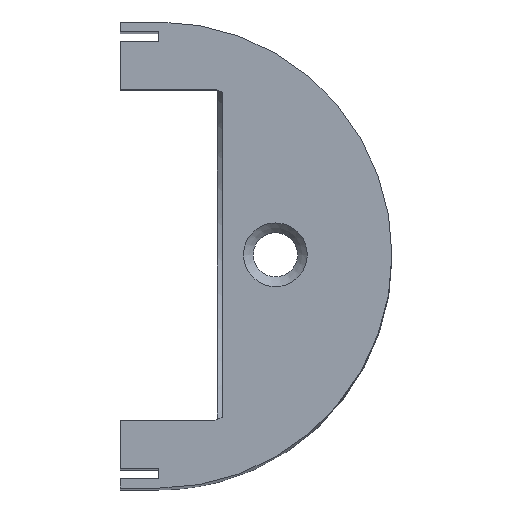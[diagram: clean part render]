
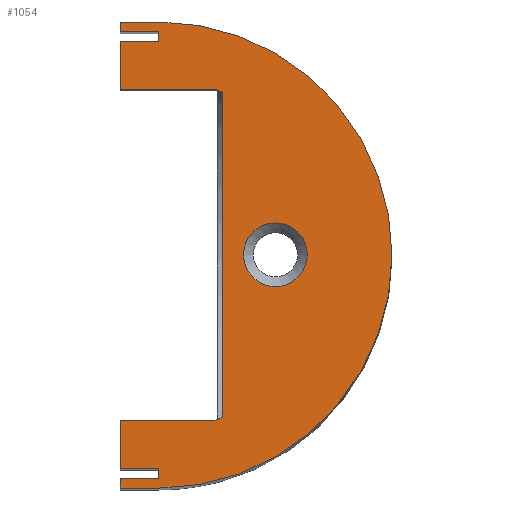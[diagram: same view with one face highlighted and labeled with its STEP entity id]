
A CAD part, top view. The second image highlights one B-rep face of the part: STEP entity #1054.
In plain terms, the highlighted planar face has unit normal (0, 0, 1).
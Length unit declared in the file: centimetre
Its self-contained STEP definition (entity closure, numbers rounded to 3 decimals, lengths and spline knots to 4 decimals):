
#163=VECTOR('',#1308,1.);
#164=VECTOR('',#1309,1.);
#165=VECTOR('',#1310,1.);
#166=VECTOR('',#1311,1.);
#167=VECTOR('',#1312,1.);
#168=VECTOR('',#1313,1.);
#169=VECTOR('',#1316,1.);
#170=VECTOR('',#1317,1.);
#171=VECTOR('',#1318,1.);
#172=VECTOR('',#1319,1.);
#173=VECTOR('',#1320,1.);
#174=VECTOR('',#1321,1.);
#175=VECTOR('',#1322,1.);
#176=VECTOR('',#1325,1.);
#177=VECTOR('',#1328,1.);
#268=LINE('',#1583,#163);
#269=LINE('',#1586,#164);
#270=LINE('',#1588,#165);
#271=LINE('',#1590,#166);
#272=LINE('',#1592,#167);
#273=LINE('',#1594,#168);
#274=LINE('',#1598,#169);
#275=LINE('',#1600,#170);
#276=LINE('',#1602,#171);
#277=LINE('',#1604,#172);
#278=LINE('',#1606,#173);
#279=LINE('',#1608,#174);
#280=LINE('',#1610,#175);
#281=LINE('',#1614,#176);
#282=LINE('',#1618,#177);
#396=VERTEX_POINT('',#1578);
#398=VERTEX_POINT('',#1584);
#399=VERTEX_POINT('',#1585);
#400=VERTEX_POINT('',#1587);
#401=VERTEX_POINT('',#1589);
#402=VERTEX_POINT('',#1591);
#403=VERTEX_POINT('',#1593);
#404=VERTEX_POINT('',#1595);
#405=VERTEX_POINT('',#1597);
#406=VERTEX_POINT('',#1599);
#407=VERTEX_POINT('',#1601);
#408=VERTEX_POINT('',#1603);
#409=VERTEX_POINT('',#1605);
#410=VERTEX_POINT('',#1607);
#411=VERTEX_POINT('',#1609);
#412=VERTEX_POINT('',#1611);
#413=VERTEX_POINT('',#1613);
#414=VERTEX_POINT('',#1615);
#415=VERTEX_POINT('',#1617);
#458=CIRCLE('',#1129,0.5207);
#460=CIRCLE('',#1133,3.81);
#461=CIRCLE('',#1134,2.853);
#462=CIRCLE('',#1135,2.853);
#554=EDGE_CURVE('',#396,#396,#458,.T.);
#556=EDGE_CURVE('',#398,#399,#268,.T.);
#557=EDGE_CURVE('',#400,#398,#269,.T.);
#558=EDGE_CURVE('',#401,#400,#270,.T.);
#559=EDGE_CURVE('',#402,#401,#271,.T.);
#560=EDGE_CURVE('',#403,#402,#272,.T.);
#561=EDGE_CURVE('',#404,#403,#273,.T.);
#562=EDGE_CURVE('',#405,#404,#460,.T.);
#563=EDGE_CURVE('',#406,#405,#274,.T.);
#564=EDGE_CURVE('',#407,#406,#275,.T.);
#565=EDGE_CURVE('',#408,#407,#276,.T.);
#566=EDGE_CURVE('',#409,#408,#277,.T.);
#567=EDGE_CURVE('',#410,#409,#278,.T.);
#568=EDGE_CURVE('',#411,#410,#279,.T.);
#569=EDGE_CURVE('',#412,#411,#280,.T.);
#570=EDGE_CURVE('',#413,#412,#461,.T.);
#571=EDGE_CURVE('',#414,#413,#281,.T.);
#572=EDGE_CURVE('',#415,#414,#462,.T.);
#573=EDGE_CURVE('',#399,#415,#282,.T.);
#760=ORIENTED_EDGE('',*,*,#556,.F.);
#761=ORIENTED_EDGE('',*,*,#557,.F.);
#762=ORIENTED_EDGE('',*,*,#558,.F.);
#763=ORIENTED_EDGE('',*,*,#559,.F.);
#764=ORIENTED_EDGE('',*,*,#560,.F.);
#765=ORIENTED_EDGE('',*,*,#561,.F.);
#766=ORIENTED_EDGE('',*,*,#562,.F.);
#767=ORIENTED_EDGE('',*,*,#563,.F.);
#768=ORIENTED_EDGE('',*,*,#564,.F.);
#769=ORIENTED_EDGE('',*,*,#565,.F.);
#770=ORIENTED_EDGE('',*,*,#566,.F.);
#771=ORIENTED_EDGE('',*,*,#567,.F.);
#772=ORIENTED_EDGE('',*,*,#568,.F.);
#773=ORIENTED_EDGE('',*,*,#569,.F.);
#774=ORIENTED_EDGE('',*,*,#570,.F.);
#775=ORIENTED_EDGE('',*,*,#571,.F.);
#776=ORIENTED_EDGE('',*,*,#572,.F.);
#777=ORIENTED_EDGE('',*,*,#573,.F.);
#778=ORIENTED_EDGE('',*,*,#554,.F.);
#941=EDGE_LOOP('',(#760,#761,#762,#763,#764,#765,#766,#767,#768,#769,#770,
#771,#772,#773,#774,#775,#776,#777));
#942=EDGE_LOOP('',(#778));
#1000=FACE_BOUND('',#941,.T.);
#1001=FACE_BOUND('',#942,.T.);
#1054=ADVANCED_FACE('',(#1000,#1001),#1710,.T.);
#1129=AXIS2_PLACEMENT_3D('',#1577,#1301,#1302);
#1132=AXIS2_PLACEMENT_3D('',#1582,#1307,$);
#1133=AXIS2_PLACEMENT_3D('',#1596,#1314,#1315);
#1134=AXIS2_PLACEMENT_3D('',#1612,#1323,#1324);
#1135=AXIS2_PLACEMENT_3D('',#1616,#1326,#1327);
#1301=DIRECTION('',(0.,0.,1.));
#1302=DIRECTION('',(-0.521,0.,0.));
#1307=DIRECTION('',(0.,0.,1.));
#1308=DIRECTION('',(0.,1.,0.));
#1309=DIRECTION('',(-1.,0.,0.));
#1310=DIRECTION('',(0.,1.,0.));
#1311=DIRECTION('',(1.,0.,0.));
#1312=DIRECTION('',(0.,1.,0.));
#1313=DIRECTION('',(-1.,0.,0.));
#1314=DIRECTION('',(0.,0.,-1.));
#1315=DIRECTION('',(3.81,0.,0.));
#1316=DIRECTION('',(1.,0.,0.));
#1317=DIRECTION('',(0.,1.,0.));
#1318=DIRECTION('',(-1.,0.,0.));
#1319=DIRECTION('',(0.,1.,0.));
#1320=DIRECTION('',(1.,0.,0.));
#1321=DIRECTION('',(0.,1.,0.));
#1322=DIRECTION('',(-1.,0.,0.));
#1323=DIRECTION('',(0.,0.,1.));
#1324=DIRECTION('',(2.853,0.,0.));
#1325=DIRECTION('',(0.,1.,0.));
#1326=DIRECTION('',(0.,0.,1.));
#1327=DIRECTION('',(2.853,0.,0.));
#1328=DIRECTION('',(1.,0.,0.));
#1577=CARTESIAN_POINT('',(1.905,0.0045,19.05));
#1578=CARTESIAN_POINT('',(2.4257,0.0045,19.05));
#1582=CARTESIAN_POINT('',(1.7144,0.0002,19.05));
#1583=CARTESIAN_POINT('',(-0.635,-3.3337,19.05));
#1584=CARTESIAN_POINT('',(-0.635,-3.4835,19.05));
#1585=CARTESIAN_POINT('',(-0.635,-2.6988,19.05));
#1586=CARTESIAN_POINT('',(-0.635,-3.4835,19.05));
#1587=CARTESIAN_POINT('',(0.,-3.4835,19.05));
#1588=CARTESIAN_POINT('',(0.,-3.4835,19.05));
#1589=CARTESIAN_POINT('',(0.,-3.6513,19.05));
#1590=CARTESIAN_POINT('',(0.,-3.6513,19.05));
#1591=CARTESIAN_POINT('',(-0.635,-3.6513,19.05));
#1592=CARTESIAN_POINT('',(-0.635,-3.6513,19.05));
#1593=CARTESIAN_POINT('',(-0.635,-3.81,19.05));
#1594=CARTESIAN_POINT('',(-0.635,-3.81,19.05));
#1595=CARTESIAN_POINT('',(0.,-3.81,19.05));
#1596=CARTESIAN_POINT('',(0.,0.,19.05));
#1597=CARTESIAN_POINT('',(0.,3.81,19.05));
#1598=CARTESIAN_POINT('',(0.,3.81,19.05));
#1599=CARTESIAN_POINT('',(-0.635,3.81,19.05));
#1600=CARTESIAN_POINT('',(-0.635,3.81,19.05));
#1601=CARTESIAN_POINT('',(-0.635,3.6513,19.05));
#1602=CARTESIAN_POINT('',(-0.635,3.6513,19.05));
#1603=CARTESIAN_POINT('',(0.,3.6513,19.05));
#1604=CARTESIAN_POINT('',(0.,3.6513,19.05));
#1605=CARTESIAN_POINT('',(0.,3.4925,19.05));
#1606=CARTESIAN_POINT('',(0.,3.4925,19.05));
#1607=CARTESIAN_POINT('',(-0.635,3.4925,19.05));
#1608=CARTESIAN_POINT('',(-0.635,2.6987,19.05));
#1609=CARTESIAN_POINT('',(-0.635,2.6987,19.05));
#1610=CARTESIAN_POINT('',(0.9384,2.6987,19.05));
#1611=CARTESIAN_POINT('',(0.9384,2.6987,19.05));
#1612=CARTESIAN_POINT('',(0.,0.0045,19.05));
#1613=CARTESIAN_POINT('',(1.0414,2.6606,19.05));
#1614=CARTESIAN_POINT('',(1.0414,-2.6516,19.05));
#1615=CARTESIAN_POINT('',(1.0414,-2.6516,19.05));
#1616=CARTESIAN_POINT('',(0.,0.0045,19.05));
#1617=CARTESIAN_POINT('',(0.9121,-2.6988,19.05));
#1618=CARTESIAN_POINT('',(-0.635,-2.6988,19.05));
#1710=PLANE('',#1132);
